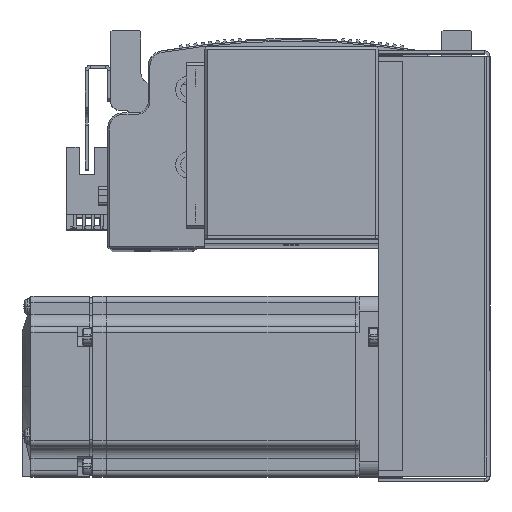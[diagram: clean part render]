
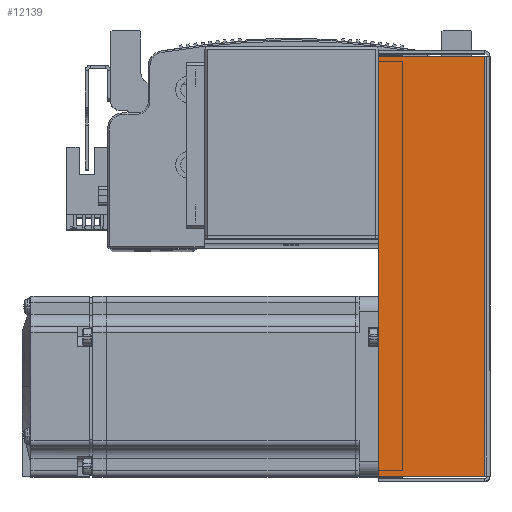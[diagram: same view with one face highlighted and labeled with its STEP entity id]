
A CAD part, top view. The second image highlights one B-rep face of the part: STEP entity #12139.
In plain terms, the highlighted planar face has unit normal (0, 0, 1).
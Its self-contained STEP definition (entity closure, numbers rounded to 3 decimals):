
#5890 = CARTESIAN_POINT ( 'NONE',  ( -69.793, 0.737, 33.5 ) ) ;
#6031 = CARTESIAN_POINT ( 'NONE',  ( -69.793, 36., 33.5 ) ) ;
#6819 = CARTESIAN_POINT ( 'NONE',  ( 69.793, 0.737, 33.5 ) ) ;
#6990 = CARTESIAN_POINT ( 'NONE',  ( 69.793, 36., 33.5 ) ) ;
#12139 = ADVANCED_FACE ( 'NONE', ( #28933 ), #32109, .F. ) ;
#21130 = EDGE_LOOP ( 'NONE', ( #43375, #43391, #43304, #43395 ) ) ;
#28933 = FACE_OUTER_BOUND ( 'NONE', #21130, .T. ) ;
#32109 = PLANE ( 'NONE',  #39856 ) ;
#32110 = DIRECTION ( 'NONE',  ( 0., 0., -1. ) ) ;
#32111 = CARTESIAN_POINT ( 'NONE',  ( 0., 0., 33.5 ) ) ;
#32153 = DIRECTION ( 'NONE',  ( -1., 0., 0. ) ) ;
#36183 = VERTEX_POINT ( 'NONE', #5890 ) ;
#36224 = VERTEX_POINT ( 'NONE', #6031 ) ;
#36456 = VERTEX_POINT ( 'NONE', #6819 ) ;
#36474 = VERTEX_POINT ( 'NONE', #6990 ) ;
#38651 = EDGE_CURVE ( 'NONE', #36456, #36183, #78120, .T. ) ;
#38743 = EDGE_CURVE ( 'NONE', #36474, #36224, #78160, .T. ) ;
#38767 = EDGE_CURVE ( 'NONE', #36183, #36224, #78269, .T. ) ;
#38777 = EDGE_CURVE ( 'NONE', #36456, #36474, #78232, .T. ) ;
#39856 = AXIS2_PLACEMENT_3D ( 'NONE', #32111, #32110, #32153 ) ;
#43304 = ORIENTED_EDGE ( 'NONE', *, *, #38743, .T. ) ;
#43375 = ORIENTED_EDGE ( 'NONE', *, *, #38651, .F. ) ;
#43391 = ORIENTED_EDGE ( 'NONE', *, *, #38777, .T. ) ;
#43395 = ORIENTED_EDGE ( 'NONE', *, *, #38767, .F. ) ;
#55610 = CARTESIAN_POINT ( 'NONE',  ( -71.5, 0.737, 33.5 ) ) ;
#55614 = DIRECTION ( 'NONE',  ( -1., 0., 0. ) ) ;
#55724 = CARTESIAN_POINT ( 'NONE',  ( 0., 36., 33.5 ) ) ;
#55744 = DIRECTION ( 'NONE',  ( -1., 0., 0. ) ) ;
#55767 = CARTESIAN_POINT ( 'NONE',  ( -69.793, 0., 33.5 ) ) ;
#55771 = DIRECTION ( 'NONE',  ( 0., 1., 0. ) ) ;
#55788 = CARTESIAN_POINT ( 'NONE',  ( 69.793, 0., 33.5 ) ) ;
#55804 = DIRECTION ( 'NONE',  ( 0., 1., 0. ) ) ;
#78120 = LINE ( 'NONE', #55610, #78124 ) ;
#78124 = VECTOR ( 'NONE', #55614, 1000. ) ;
#78160 = LINE ( 'NONE', #55724, #78173 ) ;
#78173 = VECTOR ( 'NONE', #55744, 1000. ) ;
#78226 = VECTOR ( 'NONE', #55804, 1000. ) ;
#78230 = VECTOR ( 'NONE', #55771, 1000. ) ;
#78232 = LINE ( 'NONE', #55788, #78226 ) ;
#78269 = LINE ( 'NONE', #55767, #78230 ) ;
